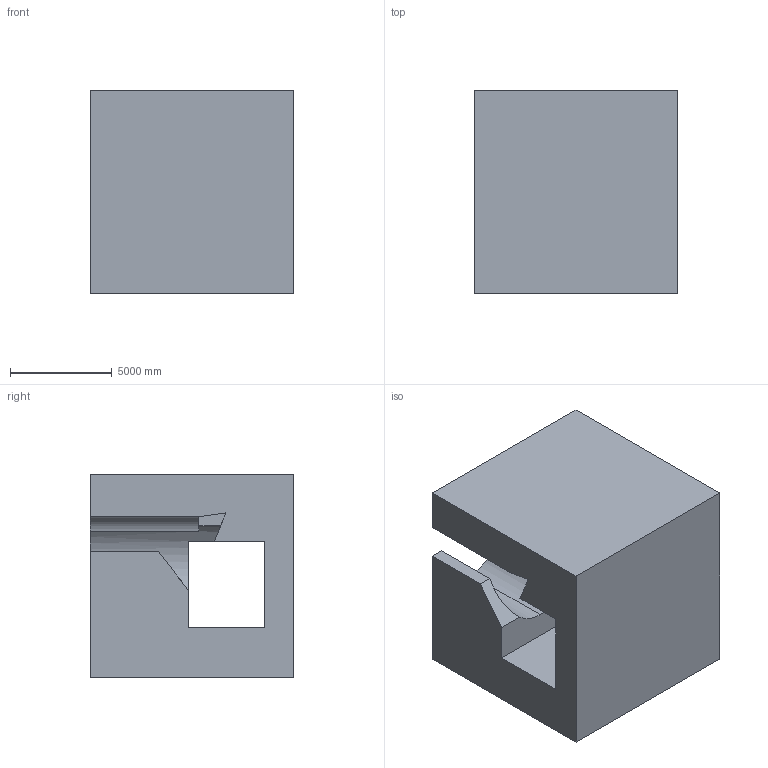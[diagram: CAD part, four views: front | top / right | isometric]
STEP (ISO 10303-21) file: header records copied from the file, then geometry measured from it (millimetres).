
FILE_DESCRIPTION (( 'STEP AP203' ), '1' );
FILE_NAME ('354.STEP', '2022-07-28T14:27:32', ( 'user' ), ( '' ), 'SwSTEP 2.0', 'SolidWorks 2021', '' );
FILE_SCHEMA (( 'CONFIG_CONTROL_DESIGN' ));
Length unit declared in the file: centimetre
Products named in the file (1): 354
Bounding box: 10000 x 10000 x 10000 mm (x, y, z)
Volume: 748037536491.2 mm3; surface area: 764968727.2 mm2
Topology: 1 solids, 1 shells, 23 faces, 66 edges, 44 vertices
Faces by surface type: plane 19, cylinder 4
Entity records: 833 total; most frequent: CARTESIAN_POINT 140, ORIENTED_EDGE 132, DIRECTION 124, EDGE_CURVE 66, LINE 52, VECTOR 52, VERTEX_POINT 44, AXIS2_PLACEMENT_3D 36
